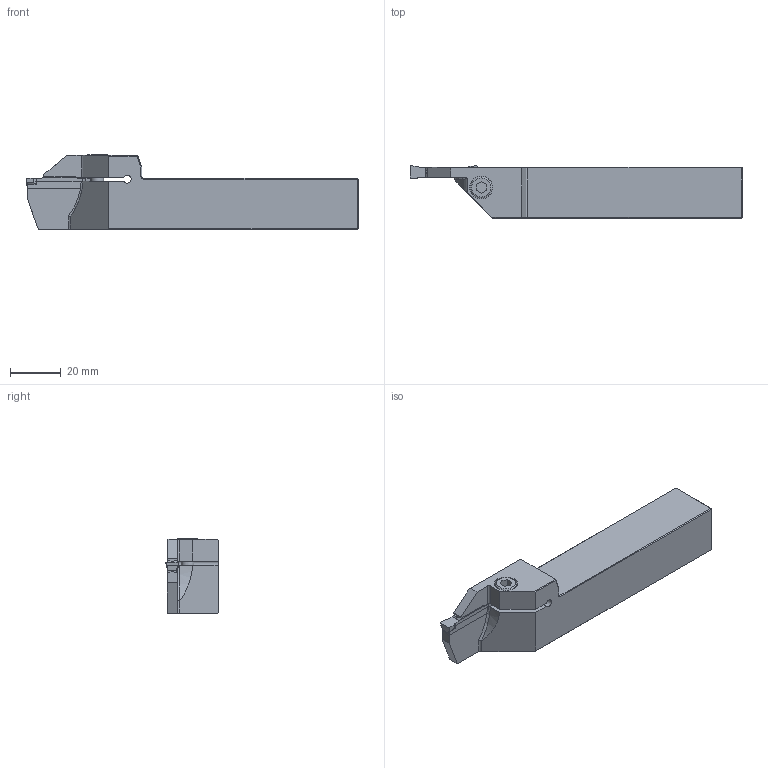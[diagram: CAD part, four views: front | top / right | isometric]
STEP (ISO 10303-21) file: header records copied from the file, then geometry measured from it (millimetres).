
FILE_DESCRIPTION(/* description */ (''),/* implementation_level */ '2;1');
FILE_NAME(/* name */ 'WEBDA_E00000485_00_DIN4003.stp',/* time_stamp */ '2021-08-04T08:37:09+02:00',/* author */ (''),/* organization */ (''),/* preprocessor_version */ 'ST-DEVELOPER v16',/* originating_system */ 'SIEMENS PLM Software NX 11.0',/* authorisation */ '');
FILE_SCHEMA (('AUTOMOTIVE_DESIGN { 1 0 10303 214 3 1 1 1 }'));
Length unit declared in the file: millimetre
Products named in the file (1): ja.h2854B24Bavjj
Bounding box: 130.5 x 20.5 x 29.3 mm (x, y, z)
Volume: 44975.4 mm3; surface area: 14431.1 mm2
Topology: 2 solids, 3 shells, 144 faces, 369 edges, 248 vertices
Faces by surface type: plane 85, cylinder 32, cone 17, bspline 8, torus 2
Full cylindrical faces by diameter (mm): 4.2 x1, 5 x1, 5.5 x1, 6 x1, 8.5 x1, 8.6 x1, 9 x1
Entity records: 4531 total; most frequent: CARTESIAN_POINT 1089, DIRECTION 673, ORIENTED_EDGE 672, EDGE_CURVE 336, LINE 237, VECTOR 237, VERTEX_POINT 221, AXIS2_PLACEMENT_3D 218
